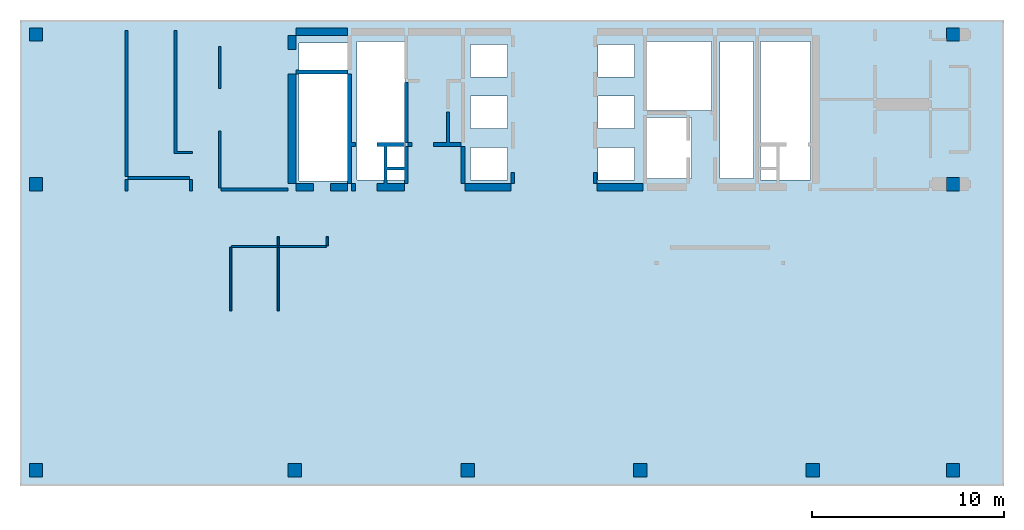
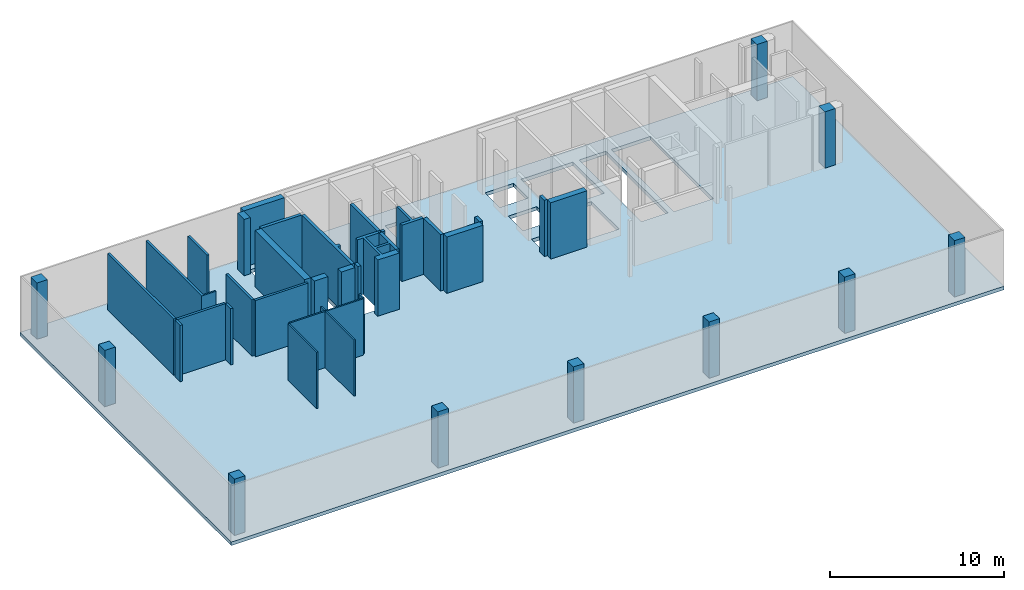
# One storey, part 1 of 4: 31 walls, 10 columns, 1 slab.
"""IFC4 building model written with IfcOpenShell, lengths in millimetres."""

from ifc_helpers import new_model, si_unit, frame, origin, place, context, project, spatial, triangles, element, save


model = new_model("IFC4")

# Units and contexts
model_context = context("Model", 3, precision=0.001, world=origin())
ifc_project = project(units=[si_unit("LENGTHUNIT", "METRE", prefix="MILLI"), si_unit("AREAUNIT", "SQUARE_METRE"), si_unit("VOLUMEUNIT", "CUBIC_METRE")], contexts=[model_context])

# Site, building, storey
site_placement = place(None, origin())
site = spatial("IfcSite", under=ifc_project, at=site_placement, Name="Site", CompositionType="ELEMENT")
building_placement = place(site_placement, origin())
building = spatial("IfcBuilding", under=site, at=building_placement, Name="INNOCEAN", CompositionType="ELEMENT")
storey_placement = place(building_placement, frame((0.0, 0.0, 51200.0)))
storey = spatial("IfcBuildingStorey", under=building, at=storey_placement, Name="F12", CompositionType="ELEMENT", Elevation=51200.0)

# Columns
column_1_placement = place(storey_placement, origin())
element("IfcColumn", 1, at=column_1_placement, inside=storey, Name="F12_Columns_F12_001", context=model_context, shape_type="Tessellation", body=[
    triangles([(40114.8, 2023.7, 0.0), (40114.8, 2023.7, 3950.0), (40114.8, 2722.3, 0.0), (40114.8, 2722.3, 3950.0), (40813.0, 2023.7, 3950.0), (40813.0, 2023.7, 0.0), (40813.0, 2722.3, 0.0), (40813.0, 2722.3, 3950.0)], [[1, 2, 3], [3, 2, 4], [5, 6, 7], [5, 7, 8], [6, 5, 1], [1, 5, 2], [8, 7, 3], [8, 3, 4], [3, 7, 1], [1, 7, 6], [8, 4, 2], [8, 2, 5]], closed=True),
])
column_2_placement = place(storey_placement, origin())
element("IfcColumn", 2, at=column_2_placement, inside=storey, Name="F12_Columns_F12_002", context=model_context, shape_type="Tessellation", body=[
    triangles([(47413.4, 24721.0, 0.0), (47413.4, 24721.0, 3950.0), (47413.4, 25419.5, 0.0), (47413.4, 25419.5, 3950.0), (48111.6, 24721.0, 3950.0), (48111.6, 24721.0, 0.0), (48111.6, 25419.5, 0.0), (48111.6, 25419.5, 3950.0)], [[1, 2, 3], [3, 2, 4], [5, 6, 7], [5, 7, 8], [6, 5, 1], [1, 5, 2], [8, 7, 3], [8, 3, 4], [1, 3, 6], [3, 7, 6], [4, 2, 5], [8, 4, 5]], closed=True),
])
column_3_placement = place(storey_placement, origin())
element("IfcColumn", 3, at=column_3_placement, inside=storey, Name="F12_Columns_F12_003", context=model_context, shape_type="Tessellation", body=[
    triangles([(47413.4, 16922.4, 0.0), (47413.4, 16922.4, 3950.0), (47413.4, 17620.9, 0.0), (47413.4, 17620.9, 3950.0), (48111.6, 16922.4, 3950.0), (48111.6, 16922.4, 0.0), (48111.6, 17620.9, 0.0), (48111.6, 17620.9, 3950.0)], [[1, 2, 3], [3, 2, 4], [5, 6, 7], [5, 7, 8], [6, 5, 1], [1, 5, 2], [8, 7, 3], [8, 3, 4], [1, 3, 6], [3, 7, 6], [4, 2, 5], [8, 4, 5]], closed=True),
])
column_4_placement = place(storey_placement, origin())
element("IfcColumn", 4, at=column_4_placement, inside=storey, Name="F12_Columns_F12_004", context=model_context, shape_type="Tessellation", body=[
    triangles([(13129.0, 2023.7, 0.0), (13129.0, 2023.7, 3950.0), (13129.0, 2722.3, 0.0), (13129.0, 2722.3, 3950.0), (13827.2, 2023.7, 3950.0), (13827.2, 2023.7, 0.0), (13827.2, 2722.3, 0.0), (13827.2, 2722.3, 3950.0)], [[1, 2, 3], [3, 2, 4], [5, 6, 7], [5, 7, 8], [6, 5, 1], [1, 5, 2], [8, 7, 3], [8, 3, 4], [3, 7, 1], [1, 7, 6], [8, 4, 2], [8, 2, 5]], closed=True),
])
column_5_placement = place(storey_placement, origin())
element("IfcColumn", 5, at=column_5_placement, inside=storey, Name="F12_Columns_F12_005", context=model_context, shape_type="Tessellation", body=[
    triangles([(47413.4, 2023.7, 0.0), (47413.4, 2023.7, 3950.0), (47413.4, 2722.3, 0.0), (47413.4, 2722.3, 3950.0), (48111.6, 2023.7, 3950.0), (48111.6, 2023.7, 0.0), (48111.6, 2722.3, 0.0), (48111.6, 2722.3, 3950.0)], [[1, 2, 3], [3, 2, 4], [5, 6, 7], [5, 7, 8], [6, 5, 1], [1, 5, 2], [8, 7, 3], [8, 3, 4], [3, 7, 1], [1, 7, 6], [8, 4, 2], [8, 2, 5]], closed=True),
])
column_6_placement = place(storey_placement, origin())
element("IfcColumn", 6, at=column_6_placement, inside=storey, Name="F12_Columns_F12_006", context=model_context, shape_type="Tessellation", body=[
    triangles([(-363.9, 2023.7, 0.0), (-363.9, 2023.7, 3950.0), (-363.9, 2722.3, 0.0), (-363.9, 2722.3, 3950.0), (334.3, 2023.7, 3950.0), (334.3, 2023.7, 0.0), (334.3, 2722.3, 0.0), (334.3, 2722.3, 3950.0)], [[1, 2, 3], [3, 2, 4], [5, 6, 7], [5, 7, 8], [6, 5, 1], [1, 5, 2], [8, 7, 3], [8, 3, 4], [3, 7, 1], [1, 7, 6], [8, 4, 2], [8, 2, 5]], closed=True),
])
column_7_placement = place(storey_placement, origin())
element("IfcColumn", 7, at=column_7_placement, inside=storey, Name="F12_Columns_F12_007", context=model_context, shape_type="Tessellation", body=[
    triangles([(-363.9, 24721.0, 0.0), (-363.9, 24721.0, 3950.0), (-363.9, 25419.5, 0.0), (-363.9, 25419.5, 3950.0), (334.3, 24721.0, 3950.0), (334.3, 24721.0, 0.0), (334.3, 25419.5, 0.0), (334.3, 25419.5, 3950.0)], [[1, 2, 3], [3, 2, 4], [5, 6, 7], [5, 7, 8], [6, 5, 1], [1, 5, 2], [8, 7, 3], [8, 3, 4], [3, 7, 1], [1, 7, 6], [8, 4, 2], [8, 2, 5]], closed=True),
])
column_8_placement = place(storey_placement, origin())
element("IfcColumn", 8, at=column_8_placement, inside=storey, Name="F12_Columns_F12_008", context=model_context, shape_type="Tessellation", body=[
    triangles([(31128.0, 2023.7, 0.0), (31128.0, 2023.7, 3950.0), (31128.0, 2722.3, 0.0), (31128.0, 2722.3, 3950.0), (31826.2, 2023.7, 3950.0), (31826.2, 2023.7, 0.0), (31826.2, 2722.3, 0.0), (31826.2, 2722.3, 3950.0)], [[1, 2, 3], [3, 2, 4], [5, 6, 7], [5, 7, 8], [6, 5, 1], [1, 5, 2], [8, 7, 3], [8, 3, 4], [3, 7, 1], [1, 7, 6], [8, 4, 2], [8, 2, 5]], closed=True),
])
column_9_placement = place(storey_placement, origin())
element("IfcColumn", 9, at=column_9_placement, inside=storey, Name="F12_Columns_F12_009", context=model_context, shape_type="Tessellation", body=[
    triangles([(22128.5, 2023.7, 0.0), (22128.5, 2023.7, 3950.0), (22128.5, 2722.3, 0.0), (22128.5, 2722.3, 3950.0), (22826.7, 2023.7, 3950.0), (22826.7, 2023.7, 0.0), (22826.7, 2722.3, 0.0), (22826.7, 2722.3, 3950.0)], [[1, 2, 3], [3, 2, 4], [5, 6, 7], [5, 7, 8], [6, 5, 1], [1, 5, 2], [8, 7, 3], [8, 3, 4], [3, 7, 1], [1, 7, 6], [8, 4, 2], [8, 2, 5]], closed=True),
])
column_10_placement = place(storey_placement, origin())
element("IfcColumn", 10, at=column_10_placement, inside=storey, Name="F12_Columns_F12_010", context=model_context, shape_type="Tessellation", body=[
    triangles([(-363.9, 16922.4, 0.0), (-363.9, 16922.4, 3950.0), (-363.9, 17620.9, 0.0), (-363.9, 17620.9, 3950.0), (334.3, 16922.4, 3950.0), (334.3, 16922.4, 0.0), (334.3, 17620.9, 0.0), (334.3, 17620.9, 3950.0)], [[1, 2, 3], [3, 2, 4], [5, 6, 7], [5, 7, 8], [6, 5, 1], [1, 5, 2], [8, 7, 3], [8, 3, 4], [3, 7, 1], [1, 7, 6], [8, 4, 2], [8, 2, 5]], closed=True),
])

# Slab
slab_placement = place(storey_placement, origin())
element("IfcSlab", 11, at=slab_placement, inside=storey, Name="F12_Slab_F12_001", context=model_context, shape_type="Tessellation", body=[
    triangles([(-846.215139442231, 25825.974025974, 0.0), (50420.3187250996, 25825.974025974, -250.0), (-846.215139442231, 25825.974025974, -250.0), (50420.3187250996, 25825.974025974, 0.0), (-846.215139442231, 1552.38095238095, 0.0), (-846.215139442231, 1552.38095238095, -250.0), (50420.3187250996, 1552.38095238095, 0.0), (50420.3187250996, 1552.38095238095, -250.0), (34130.6772908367, 20745.4545454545, -250.0), (31733.0677290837, 20745.4545454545, 0.0), (31733.0677290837, 20745.4545454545, -250.0), (34130.6772908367, 20745.4545454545, 0.0), (31733.0677290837, 17570.1298701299, 0.0), (31733.0677290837, 17570.1298701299, -250.0), (34130.6772908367, 17570.1298701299, 0.0), (34130.6772908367, 17570.1298701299, -250.0), (31168.9243027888, 19193.0735930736, 0.0), (29264.9402390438, 19193.0735930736, 0.0), (29264.9402390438, 19193.0735930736, -250.0), (31168.9243027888, 19193.0735930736, -250.0), (31168.9243027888, 17499.5670995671, 0.0), (31168.9243027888, 17499.5670995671, -250.0), (29264.9402390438, 17499.5670995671, 0.0), (29264.9402390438, 17499.5670995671, -250.0), (31168.9243027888, 21874.4588744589, 0.0), (29264.9402390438, 21874.4588744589, 0.0), (29264.9402390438, 21874.4588744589, -250.0), (31168.9243027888, 21874.4588744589, -250.0), (29264.9402390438, 20180.9523809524, 0.0), (29264.9402390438, 20180.9523809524, -250.0), (31168.9243027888, 20180.9523809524, 0.0), (31168.9243027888, 20180.9523809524, -250.0), (24540.2390438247, 19193.0735930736, -250.0), (22636.2549800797, 19193.0735930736, 0.0), (22636.2549800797, 19193.0735930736, -250.0), (24540.2390438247, 19193.0735930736, 0.0), (22636.2549800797, 17499.5670995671, 0.0), (22636.2549800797, 17499.5670995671, -250.0), (24540.2390438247, 17499.5670995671, 0.0), (24540.2390438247, 17499.5670995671, -250.0), (24540.2390438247, 21874.4588744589, -250.0), (22636.2549800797, 21874.4588744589, 0.0), (22636.2549800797, 21874.4588744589, -250.0), (24540.2390438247, 21874.4588744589, 0.0), (22636.2549800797, 20180.9523809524, 0.0), (22636.2549800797, 20180.9523809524, -250.0), (24540.2390438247, 20180.9523809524, 0.0), (24540.2390438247, 20180.9523809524, -250.0), (16219.1235059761, 24626.4069264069, 0.0), (13680.4780876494, 24626.4069264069, 0.0), (13680.4780876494, 24626.4069264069, -250.0), (16219.1235059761, 24626.4069264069, -250.0), (13680.4780876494, 17429.0043290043, 0.0), (13680.4780876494, 17429.0043290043, -250.0), (16219.1235059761, 17429.0043290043, 0.0), (16219.1235059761, 17429.0043290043, -250.0), (40336.2549800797, 24696.9696969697, -250.0), (37727.0916334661, 24696.9696969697, 0.0), (37727.0916334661, 24696.9696969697, -250.0), (40336.2549800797, 24696.9696969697, 0.0), (37727.0916334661, 17499.5670995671, 0.0), (37727.0916334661, 17499.5670995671, -250.0), (40336.2549800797, 17499.5670995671, 0.0), (40336.2549800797, 17499.5670995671, -250.0), (37374.5019920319, 24696.9696969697, 0.0), (35611.5537848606, 24696.9696969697, 0.0), (35611.5537848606, 24696.9696969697, -250.0), (37374.5019920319, 24696.9696969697, -250.0), (35611.5537848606, 17570.1298701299, 0.0), (35611.5537848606, 17570.1298701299, -250.0), (37374.5019920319, 17570.1298701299, 0.0), (37374.5019920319, 17570.1298701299, -250.0), (35188.4462151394, 24696.9696969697, 0.0), (31733.0677290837, 24696.9696969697, 0.0), (31733.0677290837, 24696.9696969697, -250.0), (35188.4462151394, 24696.9696969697, -250.0), (31733.0677290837, 21098.2683982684, 0.0), (31733.0677290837, 21098.2683982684, -250.0), (35188.4462151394, 21098.2683982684, 0.0), (35188.4462151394, 21098.2683982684, -250.0), (31168.9243027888, 24555.8441558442, 0.0), (29264.9402390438, 24555.8441558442, 0.0), (29264.9402390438, 24555.8441558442, -250.0), (31168.9243027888, 24555.8441558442, -250.0), (29264.9402390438, 22862.3376623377, 0.0), (29264.9402390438, 22862.3376623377, -250.0), (31168.9243027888, 22862.3376623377, 0.0), (31168.9243027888, 22862.3376623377, -250.0), (19251.3944223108, 24696.9696969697, 0.0), (16712.7490039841, 24696.9696969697, 0.0), (16712.7490039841, 24696.9696969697, -250.0), (19251.3944223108, 24696.9696969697, -250.0), (16712.7490039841, 17499.5670995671, 0.0), (16712.7490039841, 17499.5670995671, -250.0), (19251.3944223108, 17499.5670995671, 0.0), (19251.3944223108, 17499.5670995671, -250.0), (24540.2390438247, 24555.8441558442, -250.0), (22636.2549800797, 24555.8441558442, 0.0), (22636.2549800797, 24555.8441558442, -250.0), (24540.2390438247, 24555.8441558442, 0.0), (22636.2549800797, 22862.3376623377, 0.0), (22636.2549800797, 22862.3376623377, -250.0), (24540.2390438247, 22862.3376623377, 0.0), (24540.2390438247, 22862.3376623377, -250.0)], [[1, 2, 3], [1, 4, 2], [5, 1, 6], [6, 1, 3], [4, 7, 2], [2, 7, 8], [7, 6, 8], [7, 5, 6], [9, 10, 11], [12, 10, 9], [10, 13, 14], [10, 14, 11], [15, 12, 9], [15, 9, 16], [14, 15, 16], [13, 15, 14], [17, 18, 19], [17, 19, 20], [21, 17, 20], [21, 20, 22], [23, 21, 22], [23, 22, 24], [18, 23, 24], [18, 24, 19], [25, 26, 27], [25, 27, 28], [26, 29, 30], [26, 30, 27], [31, 25, 28], [31, 28, 32], [29, 31, 32], [29, 32, 30], [33, 34, 35], [36, 34, 33], [34, 37, 38], [34, 38, 35], [39, 36, 33], [39, 33, 40], [38, 39, 40], [37, 39, 38], [41, 42, 43], [44, 42, 41], [42, 45, 46], [42, 46, 43], [47, 44, 41], [47, 41, 48], [46, 47, 48], [45, 47, 46], [49, 50, 51], [49, 51, 52], [50, 53, 54], [50, 54, 51], [55, 49, 52], [55, 52, 56], [53, 55, 56], [53, 56, 54], [57, 58, 59], [60, 58, 57], [58, 61, 62], [58, 62, 59], [63, 60, 57], [63, 57, 64], [62, 63, 64], [61, 63, 62], [65, 66, 67], [65, 67, 68], [66, 69, 70], [66, 70, 67], [71, 65, 68], [71, 68, 72], [69, 71, 72], [69, 72, 70], [73, 74, 75], [73, 75, 76], [74, 77, 78], [74, 78, 75], [79, 73, 76], [79, 76, 80], [77, 79, 80], [77, 80, 78], [81, 82, 83], [81, 83, 84], [82, 85, 86], [82, 86, 83], [87, 81, 84], [87, 84, 88], [85, 87, 88], [85, 88, 86], [89, 90, 91], [89, 91, 92], [90, 93, 94], [90, 94, 91], [95, 89, 92], [95, 92, 96], [93, 95, 96], [93, 96, 94], [97, 98, 99], [100, 98, 97], [98, 101, 102], [98, 102, 99], [103, 100, 97], [103, 97, 104], [102, 103, 104], [101, 103, 102], [4, 63, 7], [63, 61, 7], [61, 69, 7], [71, 69, 61], [69, 15, 7], [4, 60, 63], [13, 21, 15], [15, 21, 7], [79, 12, 69], [69, 12, 15], [13, 17, 21], [21, 23, 7], [17, 10, 31], [12, 77, 10], [10, 77, 31], [66, 73, 79], [31, 18, 17], [77, 25, 31], [31, 29, 18], [77, 87, 25], [23, 39, 7], [74, 81, 87], [25, 85, 26], [87, 85, 25], [29, 36, 18], [18, 36, 23], [23, 36, 39], [74, 82, 81], [26, 47, 29], [29, 47, 36], [26, 44, 47], [36, 45, 34], [47, 45, 36], [34, 95, 37], [45, 95, 34], [85, 103, 26], [26, 103, 44], [103, 42, 44], [45, 42, 95], [85, 100, 103], [82, 100, 85], [103, 101, 42], [93, 55, 95], [39, 5, 7], [37, 5, 39], [95, 5, 37], [55, 5, 95], [55, 53, 5], [42, 89, 95], [101, 89, 42], [98, 89, 101], [90, 49, 93], [93, 49, 55], [90, 50, 49], [50, 1, 53], [53, 1, 5], [4, 1, 60], [60, 1, 58], [58, 1, 65], [65, 1, 66], [66, 1, 73], [73, 1, 74], [74, 1, 82], [82, 1, 100], [100, 1, 98], [98, 1, 89], [89, 1, 90], [90, 1, 50], [13, 10, 17], [69, 66, 79], [65, 71, 58], [58, 71, 61], [77, 74, 87], [79, 77, 12], [64, 2, 8], [62, 64, 8], [70, 62, 8], [70, 72, 62], [16, 70, 8], [57, 2, 64], [22, 14, 16], [22, 16, 8], [9, 80, 70], [9, 70, 16], [20, 14, 22], [24, 22, 8], [11, 20, 32], [78, 9, 11], [78, 11, 32], [76, 67, 80], [19, 32, 20], [28, 78, 32], [30, 32, 19], [88, 78, 28], [40, 24, 8], [84, 75, 88], [86, 28, 27], [86, 88, 28], [33, 30, 19], [33, 19, 24], [33, 24, 40], [83, 75, 84], [48, 27, 30], [48, 30, 33], [41, 27, 48], [46, 33, 35], [46, 48, 33], [96, 35, 38], [96, 46, 35], [104, 86, 27], [104, 27, 41], [43, 104, 41], [43, 46, 96], [97, 86, 104], [97, 83, 86], [102, 104, 43], [56, 94, 96], [6, 40, 8], [6, 38, 40], [6, 96, 38], [6, 56, 96], [54, 56, 6], [92, 43, 96], [92, 102, 43], [92, 99, 102], [52, 91, 94], [52, 94, 56], [51, 91, 52], [3, 51, 54], [3, 54, 6], [3, 2, 57], [3, 57, 59], [3, 59, 68], [3, 68, 67], [3, 67, 76], [3, 76, 75], [3, 75, 83], [3, 83, 97], [3, 97, 99], [3, 99, 92], [3, 92, 91], [3, 91, 51], [11, 14, 20], [67, 70, 80], [72, 68, 59], [72, 59, 62], [75, 78, 88], [78, 80, 9]], closed=True),
])

# Walls
wall_1_placement = place(storey_placement, origin())
element("IfcWall", 12, at=wall_1_placement, inside=storey, Name="F12_Walls_F12_001", context=model_context, shape_type="Tessellation", body=[
    triangles([(12659.4, 10673.3, 0.0), (12659.4, 13975.7, 0.0), (12659.4, 13975.7, 3950.0), (12659.4, 10673.3, 3950.0), (12557.8, 10673.3, 0.0), (12557.8, 10673.3, 3950.0), (12557.8, 13975.7, 0.0), (12557.8, 13975.7, 3950.0)], [[1, 2, 3], [1, 3, 4], [5, 1, 4], [5, 4, 6], [7, 5, 6], [7, 6, 8], [2, 7, 8], [2, 8, 3], [7, 2, 1], [7, 1, 5], [3, 8, 4], [4, 8, 6]], closed=True),
])
wall_2_placement = place(storey_placement, origin())
element("IfcWall", 13, at=wall_2_placement, inside=storey, Name="F12_Walls_F12_002", context=model_context, shape_type="Tessellation", body=[
    triangles([(10184.2, 10673.3, 0.0), (10184.2, 13975.7, 0.0), (10184.2, 13975.7, 3950.0), (10184.2, 10673.3, 3950.0), (10082.6, 10673.3, 0.0), (10082.6, 10673.3, 3950.0), (10082.6, 13975.7, 0.0), (10082.6, 13975.7, 3950.0)], [[1, 2, 3], [1, 3, 4], [5, 1, 4], [5, 4, 6], [7, 5, 6], [7, 6, 8], [2, 7, 8], [2, 8, 3], [7, 2, 1], [7, 1, 5], [3, 8, 4], [4, 8, 6]], closed=True),
])
wall_3_placement = place(storey_placement, origin())
element("IfcWall", 14, at=wall_3_placement, inside=storey, Name="F12_Walls_F12_003", context=model_context, shape_type="Tessellation", body=[
    triangles([(15109.2, 13975.7, 0.0), (15109.2, 14077.3, 0.0), (15109.2, 14077.3, 3950.0), (15109.2, 13975.7, 3950.0), (12659.4, 13975.7, 0.0), (12659.4, 13975.7, 3950.0), (12659.4, 14077.3, 0.0), (12659.4, 14077.3, 3950.0)], [[1, 2, 3], [1, 3, 4], [5, 1, 4], [5, 4, 6], [7, 5, 6], [7, 6, 8], [2, 7, 8], [2, 8, 3], [7, 2, 1], [7, 1, 5], [3, 8, 4], [4, 8, 6]], closed=True),
])
wall_4_placement = place(storey_placement, origin())
element("IfcWall", 15, at=wall_4_placement, inside=storey, Name="F12_Walls_F12_004", context=model_context, shape_type="Tessellation", body=[
    triangles([(12557.8, 13975.7, 0.0), (12557.8, 14077.3, 0.0), (12557.8, 14077.3, 3950.0), (12557.8, 13975.7, 3950.0), (10184.2, 13975.7, 0.0), (10184.2, 13975.7, 3950.0), (10184.2, 14077.3, 0.0), (10184.2, 14077.3, 3950.0)], [[1, 2, 3], [1, 3, 4], [5, 1, 4], [5, 4, 6], [7, 5, 6], [7, 6, 8], [2, 7, 8], [2, 8, 3], [7, 2, 1], [7, 1, 5], [3, 8, 4], [4, 8, 6]], closed=True),
])
wall_5_placement = place(storey_placement, origin())
element("IfcWall", 16, at=wall_5_placement, inside=storey, Name="F12_Walls_F12_005", context=model_context, shape_type="Tessellation", body=[
    triangles([(12659.4, 14077.3, 0.0), (12659.4, 14521.8, 0.0), (12659.4, 14521.8, 3950.0), (12659.4, 14077.3, 3950.0), (12557.8, 14077.3, 0.0), (12557.8, 14077.3, 3950.0), (12557.8, 14521.8, 0.0), (12557.8, 14521.8, 3950.0)], [[1, 2, 3], [1, 3, 4], [5, 1, 4], [5, 4, 6], [7, 5, 6], [7, 6, 8], [2, 7, 8], [2, 8, 3], [7, 2, 1], [7, 1, 5], [3, 8, 4], [4, 8, 6]], closed=True),
])
wall_6_placement = place(storey_placement, origin())
element("IfcWall", 17, at=wall_6_placement, inside=storey, Name="F12_Walls_F12_006", context=model_context, shape_type="Tessellation", body=[
    triangles([(15210.7, 14077.3, 0.0), (15210.7, 14521.8, 0.0), (15210.7, 14521.8, 3950.0), (15210.7, 14077.3, 3950.0), (15109.2, 14077.3, 0.0), (15109.2, 14077.3, 3950.0), (15109.2, 14521.8, 0.0), (15109.2, 14521.8, 3950.0)], [[1, 2, 3], [1, 3, 4], [5, 1, 4], [5, 4, 6], [7, 5, 6], [7, 6, 8], [2, 7, 8], [2, 8, 3], [7, 2, 1], [7, 1, 5], [3, 8, 4], [4, 8, 6]], closed=True),
])
wall_7_placement = place(storey_placement, origin())
element("IfcWall", 18, at=wall_7_placement, inside=storey, Name="F12_Walls_F12_007", context=model_context, shape_type="Tessellation", body=[
    triangles([(13129.0, 16922.4, 0.0), (13129.0, 17074.8, 0.0), (13129.0, 17074.8, 3950.0), (13129.0, 16922.4, 3950.0), (9638.4, 16922.4, 3950.0), (9638.4, 16922.4, 0.0), (9638.4, 17074.8, 0.0), (9638.4, 17074.8, 3950.0)], [[1, 2, 3], [1, 3, 4], [1, 4, 5], [6, 1, 5], [7, 6, 5], [7, 5, 8], [7, 8, 3], [2, 7, 3], [7, 2, 1], [7, 1, 6], [3, 8, 4], [4, 8, 5]], closed=True),
])
wall_8_placement = place(storey_placement, origin())
element("IfcWall", 19, at=wall_8_placement, inside=storey, Name="F12_Walls_F12_008", context=model_context, shape_type="Tessellation", body=[
    triangles([(14436.4, 17316.1, 0.0), (14436.4, 17316.1, 3950.0), (14436.4, 16922.4, 3950.0), (14436.4, 16922.4, 0.0), (13535.2, 16922.4, 0.0), (13535.2, 16922.4, 3950.0), (13535.2, 17316.1, 3950.0), (13535.2, 17316.1, 0.0)], [[1, 2, 3], [4, 1, 3], [5, 4, 3], [5, 3, 6], [5, 6, 7], [8, 5, 7], [1, 8, 7], [1, 7, 2], [8, 1, 4], [8, 4, 5], [2, 7, 3], [3, 7, 6]], closed=True),
])
wall_9_placement = place(storey_placement, origin())
element("IfcWall", 20, at=wall_9_placement, inside=storey, Name="F12_Walls_F12_009", context=model_context, shape_type="Tessellation", body=[
    triangles([(16226.2, 17316.1, 0.0), (16226.2, 17316.1, 3950.0), (16226.2, 16922.4, 3950.0), (16226.2, 16922.4, 0.0), (15337.6, 16922.4, 0.0), (15337.6, 16922.4, 3950.0), (15337.6, 17316.1, 3950.0), (15337.6, 17316.1, 0.0)], [[1, 2, 3], [4, 1, 3], [5, 4, 3], [5, 3, 6], [5, 6, 7], [8, 5, 7], [1, 8, 7], [1, 7, 2], [8, 1, 4], [8, 4, 5], [2, 7, 3], [3, 7, 6]], closed=True),
])
wall_10_placement = place(storey_placement, origin())
element("IfcWall", 21, at=wall_10_placement, inside=storey, Name="F12_Walls_F12_010", context=model_context, shape_type="Tessellation", body=[
    triangles([(18130.2, 19246.7, 0.0), (18130.2, 19245.0, 0.0), (18130.2, 19245.0, 3950.0), (18130.2, 19246.7, 3950.0), (18130.0, 19245.0, 0.0), (18130.0, 19245.0, 3950.0), (18130.0, 17316.1, 0.0), (18130.0, 17316.1, 3950.0), (17749.4, 17316.1, 0.0), (17749.4, 17316.1, 3950.0), (17749.4, 16922.4, 0.0), (17749.4, 16922.4, 3950.0), (19183.7, 16922.4, 0.0), (19183.7, 16922.4, 3950.0), (19183.7, 17316.1, 0.0), (19183.7, 17316.1, 3950.0), (19374.1, 17316.1, 0.0), (19374.1, 17316.1, 3950.0), (19374.1, 19246.7, 0.0), (19374.1, 19246.7, 3950.0), (19183.7, 19246.7, 0.0), (19183.7, 19246.7, 3950.0), (19183.7, 19449.9, 0.0), (19183.7, 19449.9, 3950.0), (17749.4, 19449.9, 0.0), (17749.4, 19449.9, 3950.0), (17749.4, 19246.7, 0.0), (17749.4, 19246.7, 3950.0), (18282.5, 17316.1, 0.0), (18282.5, 17316.1, 3950.0), (18282.5, 18014.7, 0.0), (18282.5, 18014.7, 3950.0), (19183.7, 18014.7, 0.0), (19183.7, 18014.7, 3950.0), (19183.7, 18167.1, 0.0), (19183.7, 18167.1, 3950.0), (18282.5, 18167.1, 0.0), (18282.5, 18167.1, 3950.0), (18282.5, 19246.7, 0.0), (18282.5, 19246.7, 3950.0)], [[1, 2, 3], [1, 3, 4], [2, 5, 6], [2, 6, 3], [5, 7, 8], [5, 8, 6], [7, 9, 10], [7, 10, 8], [11, 12, 10], [9, 11, 10], [11, 13, 14], [11, 14, 12], [15, 16, 14], [13, 15, 14], [15, 17, 18], [15, 18, 16], [17, 19, 20], [17, 20, 18], [19, 21, 22], [19, 22, 20], [21, 23, 24], [21, 24, 22], [23, 25, 26], [23, 26, 24], [25, 27, 28], [25, 28, 26], [1, 4, 28], [27, 1, 28], [15, 29, 30], [15, 30, 16], [29, 31, 32], [29, 32, 30], [31, 33, 34], [31, 34, 32], [33, 15, 16], [33, 16, 34], [21, 35, 36], [21, 36, 22], [35, 37, 38], [35, 38, 36], [37, 39, 40], [37, 40, 38], [39, 21, 22], [39, 22, 40], [33, 17, 15], [35, 17, 33], [29, 15, 13], [11, 29, 13], [7, 29, 11], [9, 7, 11], [31, 35, 33], [31, 29, 7], [19, 17, 35], [37, 35, 31], [21, 19, 35], [39, 23, 21], [2, 39, 37], [5, 2, 37], [1, 39, 2], [25, 1, 27], [25, 23, 39], [25, 39, 1], [7, 5, 37], [7, 37, 31], [18, 34, 16], [18, 36, 34], [16, 30, 14], [30, 12, 14], [30, 8, 12], [8, 10, 12], [36, 32, 34], [30, 32, 8], [18, 20, 36], [36, 38, 32], [20, 22, 36], [24, 40, 22], [40, 3, 38], [3, 6, 38], [40, 4, 3], [4, 26, 28], [24, 26, 40], [40, 26, 4], [6, 8, 38], [38, 8, 32]], closed=True),
])
wall_11_placement = place(storey_placement, origin())
element("IfcWall", 22, at=wall_11_placement, inside=storey, Name="F12_Walls_F12_011", context=model_context, shape_type="Tessellation", body=[
    triangles([(16632.4, 17316.1, 0.0), (16632.4, 17316.1, 3950.0), (16632.4, 16922.4, 3950.0), (16632.4, 16922.4, 0.0), (16429.3, 16922.4, 3950.0), (16429.3, 16922.4, 0.0), (16429.3, 17316.1, 3950.0), (16429.3, 17316.1, 0.0)], [[1, 2, 3], [4, 1, 3], [4, 3, 5], [6, 4, 5], [6, 5, 7], [8, 6, 7], [8, 7, 2], [1, 8, 2], [8, 1, 4], [8, 4, 6], [2, 7, 3], [3, 7, 5]], closed=True),
])
wall_12_placement = place(storey_placement, origin())
element("IfcWall", 23, at=wall_12_placement, inside=storey, Name="F12_Walls_F12_012", context=model_context, shape_type="Tessellation", body=[
    triangles([(4789.6, 16922.4, 0.0), (4789.6, 17519.3, 0.0), (4789.6, 17519.3, 3950.0), (4789.6, 16922.4, 3950.0), (4637.3, 16922.4, 0.0), (4637.3, 16922.4, 3950.0), (4637.3, 17519.3, 0.0), (4637.3, 17519.3, 3950.0)], [[1, 2, 3], [1, 3, 4], [5, 1, 4], [5, 4, 6], [7, 5, 6], [7, 6, 8], [2, 7, 8], [2, 8, 3], [7, 2, 1], [7, 1, 5], [3, 8, 4], [4, 8, 6]], closed=True),
])
wall_13_placement = place(storey_placement, origin())
element("IfcWall", 24, at=wall_13_placement, inside=storey, Name="F12_Walls_F12_013", context=model_context, shape_type="Tessellation", body=[
    triangles([(7988.3, 17519.3, 0.0), (7988.3, 16922.4, 0.0), (7988.3, 16922.4, 3950.0), (7988.3, 17519.3, 3950.0), (8140.6, 17519.3, 0.0), (8140.6, 17519.3, 3950.0), (8140.6, 16922.4, 0.0), (8140.6, 16922.4, 3950.0)], [[1, 2, 3], [1, 3, 4], [5, 1, 4], [5, 4, 6], [7, 5, 6], [7, 6, 8], [2, 7, 8], [2, 8, 3], [1, 5, 7], [1, 7, 2], [6, 4, 8], [8, 4, 3]], closed=True),
])
wall_14_placement = place(storey_placement, origin())
element("IfcWall", 25, at=wall_14_placement, inside=storey, Name="F12_Walls_F12_014", context=model_context, shape_type="Tessellation", body=[
    triangles([(7988.3, 17519.3, 0.0), (7988.3, 17671.7, 0.0), (7988.3, 17671.7, 3950.0), (7988.3, 17519.3, 3950.0), (4789.6, 17519.3, 0.0), (4789.6, 17519.3, 3950.0), (4789.6, 17671.7, 0.0), (4789.6, 17671.7, 3950.0)], [[1, 2, 3], [1, 3, 4], [5, 1, 4], [5, 4, 6], [7, 5, 6], [7, 6, 8], [2, 7, 8], [2, 8, 3], [7, 2, 1], [7, 1, 5], [3, 8, 4], [4, 8, 6]], closed=True),
])
wall_15_placement = place(storey_placement, origin())
element("IfcWall", 26, at=wall_15_placement, inside=storey, Name="F12_Walls_F12_015", context=model_context, shape_type="Tessellation", body=[
    triangles([(16429.3, 23019.0, 0.0), (16226.2, 23019.0, 0.0), (16226.2, 23019.0, 3950.0), (16429.3, 23019.0, 3950.0), (16429.3, 19449.9, 0.0), (16429.3, 19449.9, 3950.0), (16632.4, 19449.9, 3950.0), (16632.4, 19449.9, 0.0), (16632.4, 19246.7, 0.0), (16632.4, 19246.7, 3950.0), (16429.3, 19246.7, 3950.0), (16429.3, 19246.7, 0.0), (16429.3, 17316.1, 0.0), (16429.3, 17316.1, 3950.0), (16226.2, 17316.1, 0.0), (16226.2, 17316.1, 3950.0), (16226.2, 19246.7, 0.0), (16226.2, 19246.7, 3950.0), (16226.2, 19449.9, 0.0), (16226.2, 19449.9, 3950.0)], [[1, 2, 3], [1, 3, 4], [5, 1, 4], [5, 4, 6], [5, 6, 7], [8, 5, 7], [9, 8, 7], [9, 7, 10], [9, 10, 11], [12, 9, 11], [13, 12, 11], [13, 11, 14], [15, 13, 14], [15, 14, 16], [17, 15, 16], [17, 16, 18], [19, 17, 18], [19, 18, 20], [2, 19, 20], [2, 20, 3], [17, 12, 13], [17, 13, 15], [5, 8, 9], [5, 9, 12], [19, 5, 12], [19, 12, 17], [1, 5, 19], [2, 1, 19], [11, 18, 14], [14, 18, 16], [7, 6, 10], [10, 6, 11], [6, 20, 11], [11, 20, 18], [6, 4, 20], [4, 3, 20]], closed=True),
])
wall_16_placement = place(storey_placement, origin())
element("IfcWall", 27, at=wall_16_placement, inside=storey, Name="F12_Walls_F12_016", context=model_context, shape_type="Tessellation", body=[
    triangles([(9638.4, 17074.8, 0.0), (9638.4, 20046.9, 0.0), (9638.4, 20046.9, 3950.0), (9638.4, 17074.8, 3950.0), (9486.1, 17074.8, 0.0), (9486.1, 17074.8, 3950.0), (9486.1, 20046.9, 0.0), (9486.1, 20046.9, 3950.0)], [[1, 2, 3], [1, 3, 4], [5, 1, 4], [5, 4, 6], [7, 5, 6], [7, 6, 8], [2, 7, 8], [2, 8, 3], [7, 2, 1], [7, 1, 5], [3, 8, 4], [4, 8, 6]], closed=True),
])
wall_17_placement = place(storey_placement, origin())
element("IfcWall", 28, at=wall_17_placement, inside=storey, Name="F12_Walls_F12_017", context=model_context, shape_type="Tessellation", body=[
    triangles([(7340.9, 25267.1, 0.0), (7188.6, 25267.1, 0.0), (7188.6, 25267.1, 3950.0), (7340.9, 25267.1, 3950.0), (7340.9, 18967.3, 0.0), (7340.9, 18967.3, 3950.0), (8140.6, 18967.3, 0.0), (8140.6, 18967.3, 3950.0), (8140.6, 18865.7, 0.0), (8140.6, 18865.7, 3950.0), (8140.0, 18865.7, 0.0), (8140.0, 18865.7, 3950.0), (8140.0, 18865.0, 3950.0), (8140.0, 18865.0, 0.0), (7340.0, 18865.0, 0.0), (7340.0, 18865.0, 3950.0), (7340.0, 18865.7, 3950.0), (7340.0, 18865.7, 0.0), (7188.6, 18865.7, 0.0), (7188.6, 18865.7, 3950.0)], [[1, 2, 3], [1, 3, 4], [5, 1, 4], [5, 4, 6], [7, 5, 6], [7, 6, 8], [9, 7, 8], [9, 8, 10], [11, 9, 10], [11, 10, 12], [11, 12, 13], [14, 11, 13], [15, 14, 13], [15, 13, 16], [15, 16, 17], [18, 15, 17], [19, 18, 17], [19, 17, 20], [3, 19, 20], [2, 19, 3], [7, 9, 11], [15, 11, 14], [18, 11, 15], [5, 7, 11], [5, 11, 18], [19, 5, 18], [2, 1, 5], [2, 5, 19], [10, 8, 12], [12, 16, 13], [12, 17, 16], [8, 6, 12], [12, 6, 17], [6, 20, 17], [4, 3, 6], [6, 3, 20]], closed=True),
])
wall_18_placement = place(storey_placement, origin())
element("IfcWall", 29, at=wall_18_placement, inside=storey, Name="F12_Walls_F12_018", context=model_context, shape_type="Tessellation", body=[
    triangles([(13535.2, 17316.1, 0.0), (13535.2, 23019.0, 0.0), (13535.2, 23019.0, 3950.0), (13535.2, 17316.1, 3950.0), (13129.0, 17316.1, 3950.0), (13129.0, 17316.1, 0.0), (13129.0, 23019.0, 0.0), (13129.0, 23019.0, 3950.0)], [[1, 2, 3], [1, 3, 4], [1, 4, 5], [6, 1, 5], [7, 6, 5], [7, 5, 8], [7, 8, 3], [2, 7, 3], [7, 2, 1], [7, 1, 6], [3, 8, 4], [4, 8, 5]], closed=True),
])
wall_19_placement = place(storey_placement, origin())
element("IfcWall", 30, at=wall_19_placement, inside=storey, Name="F12_Walls_F12_019", context=model_context, shape_type="Tessellation", body=[
    triangles([(4789.6, 17671.7, 0.0), (4789.6, 25267.1, 0.0), (4789.6, 25267.1, 3950.0), (4789.6, 17671.7, 3950.0), (4637.3, 17671.7, 0.0), (4637.3, 17671.7, 3950.0), (4637.3, 25267.1, 0.0), (4637.3, 25267.1, 3950.0)], [[1, 2, 3], [1, 3, 4], [5, 1, 4], [5, 4, 6], [7, 5, 6], [7, 6, 8], [2, 7, 8], [2, 8, 3], [7, 2, 1], [7, 1, 5], [3, 8, 4], [4, 8, 6]], closed=True),
])
wall_20_placement = place(storey_placement, origin())
element("IfcWall", 31, at=wall_20_placement, inside=storey, Name="F12_Walls_F12_020", context=model_context, shape_type="Tessellation", body=[
    triangles([(16226.2, 23019.0, 0.0), (16226.2, 23222.2, 0.0), (16226.2, 23222.2, 3950.0), (16226.2, 23019.0, 3950.0), (13535.2, 23019.0, 0.0), (13535.2, 23019.0, 3950.0), (13535.2, 23222.2, 0.0), (13535.2, 23222.2, 3950.0)], [[1, 2, 3], [1, 3, 4], [5, 1, 4], [5, 4, 6], [7, 5, 6], [7, 6, 8], [2, 7, 8], [2, 8, 3], [7, 2, 1], [7, 1, 5], [3, 8, 4], [4, 8, 6]], closed=True),
])
wall_21_placement = place(storey_placement, origin())
element("IfcWall", 32, at=wall_21_placement, inside=storey, Name="F12_Walls_F12_021", context=model_context, shape_type="Tessellation", body=[
    triangles([(9638.4, 22244.2, 0.0), (9638.4, 24454.2, 0.0), (9638.4, 24454.2, 3950.0), (9638.4, 22244.2, 3950.0), (9486.1, 22244.2, 0.0), (9486.1, 22244.2, 3950.0), (9486.1, 24454.2, 0.0), (9486.1, 24454.2, 3950.0)], [[1, 2, 3], [1, 3, 4], [5, 1, 4], [5, 4, 6], [7, 5, 6], [7, 6, 8], [2, 7, 8], [2, 8, 3], [7, 2, 1], [7, 1, 5], [3, 8, 4], [4, 8, 6]], closed=True),
])
wall_22_placement = place(storey_placement, origin())
element("IfcWall", 33, at=wall_22_placement, inside=storey, Name="F12_Walls_F12_023", context=model_context, shape_type="Tessellation", body=[
    triangles([(13535.2, 24276.4, 0.0), (13535.2, 25025.8, 0.0), (13535.2, 25025.8, 3950.0), (13535.2, 24276.4, 3950.0), (13129.0, 24276.4, 3950.0), (13129.0, 24276.4, 0.0), (13129.0, 25025.8, 0.0), (13129.0, 25025.8, 3950.0)], [[1, 2, 3], [1, 3, 4], [1, 4, 5], [6, 1, 5], [7, 6, 5], [7, 5, 8], [7, 8, 3], [2, 7, 3], [2, 1, 6], [7, 2, 6], [4, 3, 5], [3, 8, 5]], closed=True),
])
wall_23_placement = place(storey_placement, origin())
element("IfcWall", 34, at=wall_23_placement, inside=storey, Name="F12_Walls_F12_024", context=model_context, shape_type="Tessellation", body=[
    triangles([(13535.2, 25419.5, 0.0), (13535.2, 25025.8, 0.0), (13535.2, 25025.8, 3950.0), (13535.2, 25419.5, 3950.0), (16226.2, 25419.5, 0.0), (16226.2, 25419.5, 3950.0), (16226.2, 25025.8, 0.0), (16226.2, 25025.8, 3950.0)], [[1, 2, 3], [1, 3, 4], [5, 1, 4], [5, 4, 6], [7, 5, 6], [7, 6, 8], [2, 7, 8], [2, 8, 3], [2, 5, 7], [1, 5, 2], [6, 3, 8], [6, 4, 3]], closed=True),
])
wall_24_placement = place(storey_placement, origin())
element("IfcWall", 35, at=wall_24_placement, inside=storey, Name="F12_Walls_F12_027", context=model_context, shape_type="Tessellation", body=[
    triangles([(31623.1, 17316.1, 0.0), (31623.1, 17316.1, 3950.0), (31623.1, 16922.4, 3950.0), (31623.1, 16922.4, 0.0), (29224.0, 16922.4, 0.0), (29224.0, 16922.4, 3950.0), (29224.0, 17316.1, 3950.0), (29224.0, 17316.1, 0.0)], [[1, 2, 3], [4, 1, 3], [5, 4, 3], [5, 3, 6], [5, 6, 7], [8, 5, 7], [1, 8, 7], [1, 7, 2], [8, 1, 4], [8, 4, 5], [2, 7, 3], [3, 7, 6]], closed=True),
])
wall_25_placement = place(storey_placement, origin())
element("IfcWall", 36, at=wall_25_placement, inside=storey, Name="F12_Walls_F12_028", context=model_context, shape_type="Tessellation", body=[
    triangles([(24730.6, 17316.1, 0.0), (24730.6, 17316.1, 3950.0), (24730.6, 16922.4, 3950.0), (24730.6, 16922.4, 0.0), (22331.6, 16922.4, 0.0), (22331.6, 16922.4, 3950.0), (22331.6, 17316.1, 3950.0), (22331.6, 17316.1, 0.0)], [[1, 2, 3], [4, 1, 3], [5, 4, 3], [5, 3, 6], [5, 6, 7], [8, 5, 7], [1, 8, 7], [1, 7, 2], [8, 1, 4], [8, 4, 5], [2, 7, 3], [3, 7, 6]], closed=True),
])
wall_26_placement = place(storey_placement, origin())
element("IfcWall", 37, at=wall_26_placement, inside=storey, Name="F12_Walls_F12_029", context=model_context, shape_type="Tessellation", body=[
    triangles([(29224.0, 17875.0, 0.0), (29224.0, 17875.0, 3950.0), (29224.0, 17316.1, 3950.0), (29224.0, 17316.1, 0.0), (29020.9, 17316.1, 0.0), (29020.9, 17316.1, 3950.0), (29020.9, 17875.0, 3950.0), (29020.9, 17875.0, 0.0)], [[1, 2, 3], [4, 1, 3], [5, 4, 3], [5, 3, 6], [5, 6, 7], [8, 5, 7], [1, 8, 7], [1, 7, 2], [8, 1, 4], [8, 4, 5], [2, 7, 3], [3, 7, 6]], closed=True),
])
wall_27_placement = place(storey_placement, origin())
element("IfcWall", 38, at=wall_27_placement, inside=storey, Name="F12_Walls_F12_030", context=model_context, shape_type="Tessellation", body=[
    triangles([(24921.0, 17875.0, 0.0), (24921.0, 17875.0, 3950.0), (24921.0, 17316.1, 3950.0), (24921.0, 17316.1, 0.0), (24730.6, 17316.1, 0.0), (24730.6, 17316.1, 3950.0), (24730.6, 17875.0, 3950.0), (24730.6, 17875.0, 0.0)], [[1, 2, 3], [4, 1, 3], [5, 4, 3], [5, 3, 6], [5, 6, 7], [8, 5, 7], [1, 8, 7], [1, 7, 2], [8, 1, 4], [8, 4, 5], [2, 7, 3], [3, 7, 6]], closed=True),
])
wall_28_placement = place(storey_placement, origin())
element("IfcWall", 39, at=wall_28_placement, inside=storey, Name="F12_Walls_F12_031", context=model_context, shape_type="Tessellation", body=[
    triangles([(22331.6, 17316.1, 0.0), (22331.6, 19246.7, 0.0), (22331.6, 19246.7, 3950.0), (22331.6, 17316.1, 3950.0), (22128.5, 17316.1, 0.0), (22128.5, 17316.1, 3950.0), (22128.5, 19246.7, 0.0), (22128.5, 19246.7, 3950.0)], [[1, 2, 3], [1, 3, 4], [5, 1, 4], [5, 4, 6], [7, 5, 6], [7, 6, 8], [2, 7, 8], [2, 8, 3], [7, 2, 1], [7, 1, 5], [3, 8, 4], [4, 8, 6]], closed=True),
])
wall_29_placement = place(storey_placement, origin())
element("IfcWall", 40, at=wall_29_placement, inside=storey, Name="F12_Walls_F12_033", context=model_context, shape_type="Tessellation", body=[
    triangles([(19374.1, 19449.9, 0.0), (19374.1, 19449.9, 3950.0), (19577.2, 19449.9, 3950.0), (19577.2, 19449.9, 0.0), (19577.2, 19246.7, 0.0), (19577.2, 19246.7, 3950.0), (19374.1, 19246.7, 3950.0), (19374.1, 19246.7, 0.0)], [[1, 2, 3], [4, 1, 3], [5, 4, 3], [5, 3, 6], [5, 6, 7], [8, 5, 7], [1, 8, 7], [1, 7, 2], [1, 4, 5], [1, 5, 8], [3, 2, 6], [6, 2, 7]], closed=True),
])
wall_30_placement = place(storey_placement, origin())
element("IfcWall", 41, at=wall_30_placement, inside=storey, Name="F12_Walls_F12_034", context=model_context, shape_type="Tessellation", body=[
    triangles([(21366.9, 21024.9, 0.0), (21366.9, 19449.9, 0.0), (21366.9, 19449.9, 3950.0), (21366.9, 21024.9, 3950.0), (21519.3, 21024.9, 0.0), (21519.3, 21024.9, 3950.0), (21519.3, 19449.9, 0.0), (21519.3, 19449.9, 3950.0), (22128.5, 19449.9, 0.0), (22128.5, 19449.9, 3950.0), (22128.5, 19246.7, 0.0), (22128.5, 19246.7, 3950.0), (20694.2, 19246.7, 0.0), (20694.2, 19246.7, 3950.0), (20694.2, 19449.9, 0.0), (20694.2, 19449.9, 3950.0)], [[1, 2, 3], [1, 3, 4], [5, 1, 4], [5, 4, 6], [7, 5, 6], [7, 6, 8], [9, 7, 8], [9, 8, 10], [11, 9, 10], [11, 10, 12], [13, 11, 12], [13, 12, 14], [15, 13, 14], [15, 14, 16], [2, 15, 16], [2, 16, 3], [7, 9, 11], [2, 7, 11], [13, 2, 11], [15, 2, 13], [1, 5, 7], [1, 7, 2], [10, 8, 12], [8, 3, 12], [3, 14, 12], [3, 16, 14], [6, 4, 8], [8, 4, 3]], closed=True),
])
wall_31_placement = place(storey_placement, origin())
element("IfcWall", 42, at=wall_31_placement, inside=storey, Name="F12_Walls_F12_037", context=model_context, shape_type="Tessellation", body=[
    triangles([(19374.1, 19449.9, 0.0), (19374.1, 22574.4, 0.0), (19374.1, 22574.4, 3950.0), (19374.1, 19449.9, 3950.0), (19183.7, 19449.9, 0.0), (19183.7, 19449.9, 3950.0), (19183.7, 22574.4, 0.0), (19183.7, 22574.4, 3950.0)], [[1, 2, 3], [1, 3, 4], [5, 1, 4], [5, 4, 6], [7, 5, 6], [7, 6, 8], [2, 7, 8], [2, 8, 3], [2, 1, 5], [7, 2, 5], [4, 3, 6], [3, 8, 6]], closed=True),
])

save(model, "model.ifc")
